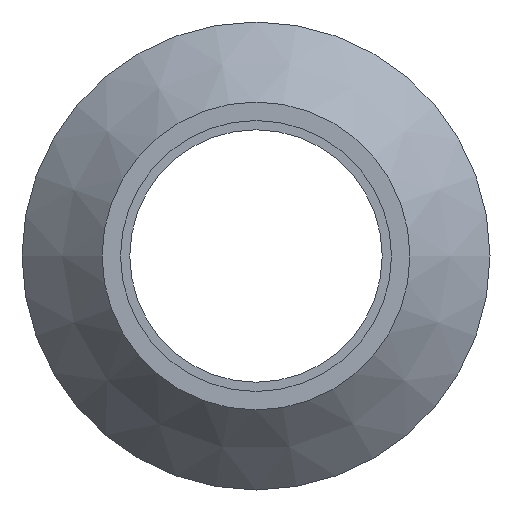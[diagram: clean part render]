
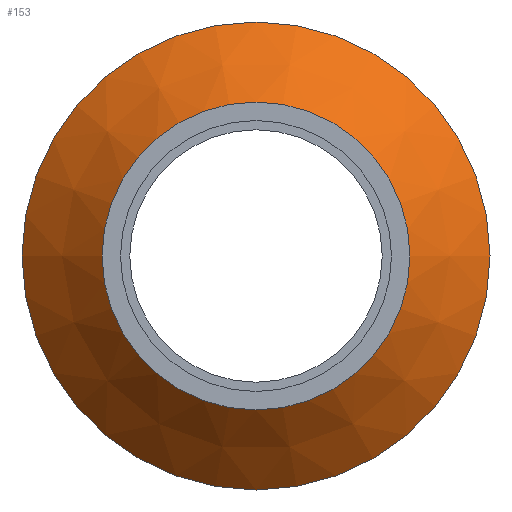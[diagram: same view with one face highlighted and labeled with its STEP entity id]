
A CAD part, left-side view. The second image highlights one B-rep face of the part: STEP entity #153.
In plain terms, the highlighted conical face has half-angle 45 degrees and reference radius 31.5 mm.
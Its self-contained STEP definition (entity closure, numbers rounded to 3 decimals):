
#32=FACE_BOUND($,#69,.T.);
#46=FACE_OUTER_BOUND($,#68,.T.);
#68=EDGE_LOOP($,(#133));
#69=EDGE_LOOP($,(#134));
#84=CIRCLE($,#179,25.);
#85=CIRCLE($,#181,38.);
#97=VERTEX_POINT($,#270);
#98=VERTEX_POINT($,#273);
#110=EDGE_CURVE($,#97,#97,#84,.T.);
#111=EDGE_CURVE($,#98,#98,#85,.T.);
#133=ORIENTED_EDGE($,*,*,#111,.F.);
#134=ORIENTED_EDGE($,*,*,#110,.T.);
#142=CONICAL_SURFACE($,#180,31.5,45.);
#153=ADVANCED_FACE($,(#46,#32),#142,.T.);
#179=AXIS2_PLACEMENT_3D($,#271,#227,#228);
#180=AXIS2_PLACEMENT_3D($,#272,#229,#230);
#181=AXIS2_PLACEMENT_3D($,#274,#231,#232);
#227=DIRECTION('center_axis',(1.,0.,0.));
#228=DIRECTION('ref_axis',(0.,1.,0.));
#229=DIRECTION('center_axis',(1.,0.,0.));
#230=DIRECTION('ref_axis',(0.,1.,0.));
#231=DIRECTION('center_axis',(1.,0.,0.));
#232=DIRECTION('ref_axis',(0.,1.,0.));
#270=CARTESIAN_POINT('',(205.,25.,0.));
#271=CARTESIAN_POINT('Origin',(205.,0.,0.));
#272=CARTESIAN_POINT('Origin',(211.5,0.,0.));
#273=CARTESIAN_POINT('',(218.,38.,0.));
#274=CARTESIAN_POINT('Origin',(218.,0.,0.));
